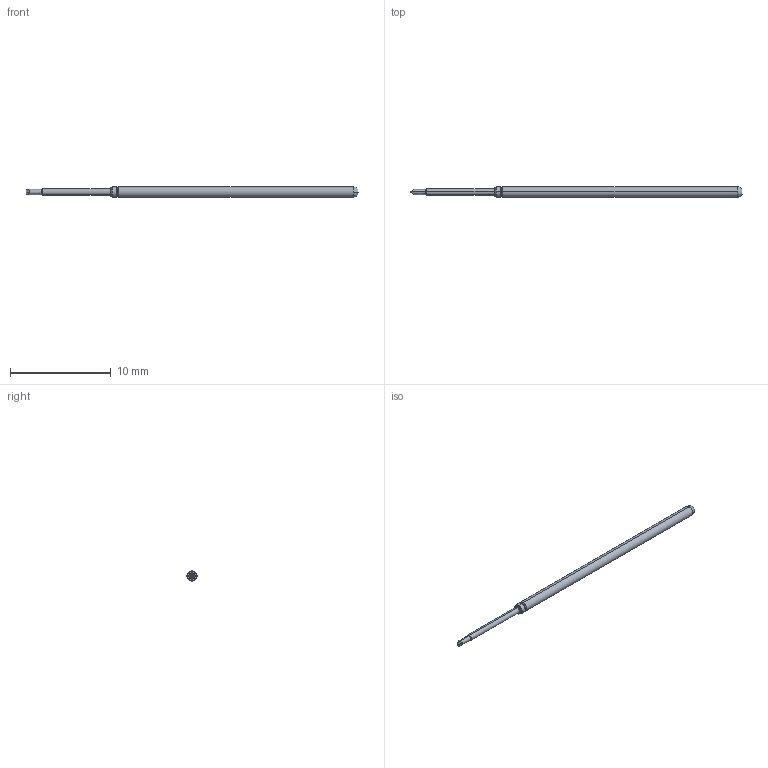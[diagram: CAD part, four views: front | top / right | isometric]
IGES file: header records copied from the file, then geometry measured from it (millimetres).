
Start section: SolidWorks IGES file using analytic representation for surfaces
Global section: file name: Z:\probe solid model mockups\Solidworks models\IGES Files\LFRE-1 IGES files\LFRE-1I15.IGS; native system: SolidWorks 2016; preprocessor: SolidWorks 2016; author: mlee; date: 180928.113536; units: inch
Bounding box: 33.02 x 1.02 x 1.02 mm (x, y, z)
Surface area: 94.7 mm2 (no closed solid volume)
Topology: 0 solids, 0 shells, 30 faces, 182 edges, 182 vertices
Faces by surface type: revolution 24, bspline 6
